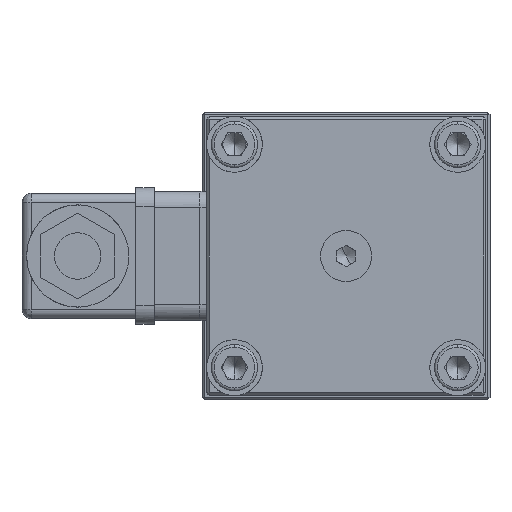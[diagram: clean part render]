
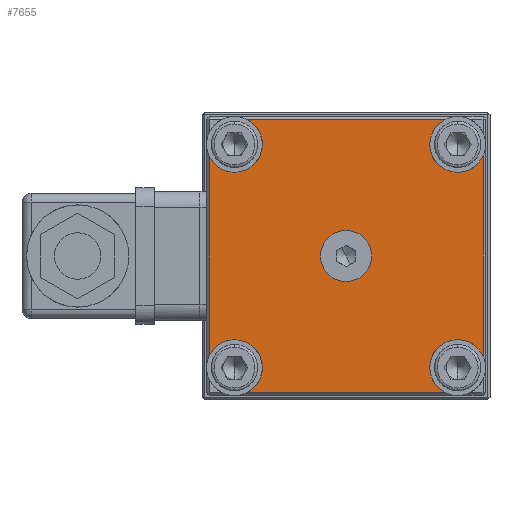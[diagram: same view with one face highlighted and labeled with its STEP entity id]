
A CAD part, left-side view. The second image highlights one B-rep face of the part: STEP entity #7655.
In plain terms, the highlighted planar face has unit normal (-1, 0, 0).
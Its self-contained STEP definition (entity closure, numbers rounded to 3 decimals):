
#188 = ORIENTED_EDGE ( 'NONE', *, *, #16008, .T. ) ;
#210 = CIRCLE ( 'NONE', #5236, 5.5 ) ;
#301 = AXIS2_PLACEMENT_3D ( 'NONE', #13980, #16848, #15102 ) ;
#345 = VERTEX_POINT ( 'NONE', #12048 ) ;
#861 = CIRCLE ( 'NONE', #15556, 5.5 ) ;
#968 = AXIS2_PLACEMENT_3D ( 'NONE', #15687, #13019, #11976 ) ;
#998 = DIRECTION ( 'NONE',  ( 1., 0., 0. ) ) ;
#1116 = DIRECTION ( 'NONE',  ( 0., -1., 0. ) ) ;
#1243 = VECTOR ( 'NONE', #1116, 1000. ) ;
#1252 = CARTESIAN_POINT ( 'NONE',  ( -106.2, 24.04, -24.04 ) ) ;
#1376 = VERTEX_POINT ( 'NONE', #6671 ) ;
#2007 = AXIS2_PLACEMENT_3D ( 'NONE', #9229, #6359, #11733 ) ;
#2308 = ORIENTED_EDGE ( 'NONE', *, *, #11962, .T. ) ;
#2666 = ORIENTED_EDGE ( 'NONE', *, *, #7979, .T. ) ;
#2819 = CIRCLE ( 'NONE', #2007, 6. ) ;
#3038 = DIRECTION ( 'NONE',  ( 0., 0.5, 0.866 ) ) ;
#3246 = DIRECTION ( 'NONE',  ( 0., 0., -1. ) ) ;
#3252 = DIRECTION ( 'NONE',  ( 0., 0., 1. ) ) ;
#3268 = DIRECTION ( 'NONE',  ( -1., 0., 0. ) ) ;
#3324 = EDGE_CURVE ( 'NONE', #15668, #1376, #17120, .T. ) ;
#3343 = VERTEX_POINT ( 'NONE', #15802 ) ;
#3401 = CARTESIAN_POINT ( 'NONE',  ( -106.2, 24.04, -24.04 ) ) ;
#3488 = AXIS2_PLACEMENT_3D ( 'NONE', #10334, #9039, #7923 ) ;
#4364 = CARTESIAN_POINT ( 'NONE',  ( -106.2, 0., 0. ) ) ;
#4409 = FACE_BOUND ( 'NONE', #10839, .T. ) ;
#4416 = VERTEX_POINT ( 'NONE', #7624 ) ;
#4550 = AXIS2_PLACEMENT_3D ( 'NONE', #9617, #13680, #3252 ) ;
#4722 = EDGE_CURVE ( 'NONE', #8024, #8419, #861, .T. ) ;
#4875 = CIRCLE ( 'NONE', #7096, 6. ) ;
#4986 = DIRECTION ( 'NONE',  ( 1., 0., 0. ) ) ;
#5067 = DIRECTION ( 'NONE',  ( 0., 0., -1. ) ) ;
#5132 = EDGE_CURVE ( 'NONE', #12829, #8353, #16643, .T. ) ;
#5236 = AXIS2_PLACEMENT_3D ( 'NONE', #4364, #9927, #3038 ) ;
#5253 = CARTESIAN_POINT ( 'NONE',  ( -106.2, -24.04, -24.04 ) ) ;
#5409 = ORIENTED_EDGE ( 'NONE', *, *, #11134, .F. ) ;
#5442 = DIRECTION ( 'NONE',  ( 0., 0., -1. ) ) ;
#5502 = EDGE_CURVE ( 'NONE', #11074, #10484, #17157, .T. ) ;
#5667 = CARTESIAN_POINT ( 'NONE',  ( -106.2, -29.5, 29.5 ) ) ;
#5804 = PLANE ( 'NONE',  #4550 ) ;
#6198 = VERTEX_POINT ( 'NONE', #6500 ) ;
#6359 = DIRECTION ( 'NONE',  ( 1., 0., 0. ) ) ;
#6500 = CARTESIAN_POINT ( 'NONE',  ( -106.2, -24.04, 18.04 ) ) ;
#6671 = CARTESIAN_POINT ( 'NONE',  ( -106.2, -29.5, 21.552 ) ) ;
#6915 = VECTOR ( 'NONE', #9311, 1000. ) ;
#7096 = AXIS2_PLACEMENT_3D ( 'NONE', #10662, #8324, #5442 ) ;
#7154 = CARTESIAN_POINT ( 'NONE',  ( -106.2, 24.04, -18.04 ) ) ;
#7221 = CARTESIAN_POINT ( 'NONE',  ( -106.2, 0., 0. ) ) ;
#7624 = CARTESIAN_POINT ( 'NONE',  ( -106.2, -21.552, 29.5 ) ) ;
#7655 = ADVANCED_FACE ( 'NONE', ( #4409, #14986 ), #5804, .T. ) ;
#7923 = DIRECTION ( 'NONE',  ( 0., 0., -1. ) ) ;
#7974 = ORIENTED_EDGE ( 'NONE', *, *, #3324, .T. ) ;
#7979 = EDGE_CURVE ( 'NONE', #10484, #8412, #14705, .T. ) ;
#7986 = ORIENTED_EDGE ( 'NONE', *, *, #14650, .T. ) ;
#8024 = VERTEX_POINT ( 'NONE', #10985 ) ;
#8324 = DIRECTION ( 'NONE',  ( 1., 0., 0. ) ) ;
#8353 = VERTEX_POINT ( 'NONE', #11213 ) ;
#8412 = VERTEX_POINT ( 'NONE', #13220 ) ;
#8419 = VERTEX_POINT ( 'NONE', #16862 ) ;
#8615 = ORIENTED_EDGE ( 'NONE', *, *, #4722, .F. ) ;
#9029 = ORIENTED_EDGE ( 'NONE', *, *, #16714, .T. ) ;
#9039 = DIRECTION ( 'NONE',  ( 1., 0., 0. ) ) ;
#9090 = CIRCLE ( 'NONE', #9366, 6. ) ;
#9229 = CARTESIAN_POINT ( 'NONE',  ( -106.2, -24.04, 24.04 ) ) ;
#9311 = DIRECTION ( 'NONE',  ( 0., 0., 1. ) ) ;
#9366 = AXIS2_PLACEMENT_3D ( 'NONE', #5253, #4986, #13057 ) ;
#9397 = AXIS2_PLACEMENT_3D ( 'NONE', #3401, #998, #13065 ) ;
#9404 = CARTESIAN_POINT ( 'NONE',  ( -106.2, 29.5, 21.552 ) ) ;
#9481 = CIRCLE ( 'NONE', #301, 6. ) ;
#9579 = DIRECTION ( 'NONE',  ( 0., 1., 0. ) ) ;
#9617 = CARTESIAN_POINT ( 'NONE',  ( -106.2, 0., 0. ) ) ;
#9832 = CIRCLE ( 'NONE', #968, 6. ) ;
#9927 = DIRECTION ( 'NONE',  ( -1., 0., 0. ) ) ;
#10272 = AXIS2_PLACEMENT_3D ( 'NONE', #1252, #16956, #5067 ) ;
#10334 = CARTESIAN_POINT ( 'NONE',  ( -106.2, -24.04, -24.04 ) ) ;
#10367 = EDGE_LOOP ( 'NONE', ( #2666, #188, #7986, #7974, #15471, #13586, #11177, #16005, #2308, #13248, #9029, #15938 ) ) ;
#10481 = VERTEX_POINT ( 'NONE', #12598 ) ;
#10484 = VERTEX_POINT ( 'NONE', #12781 ) ;
#10623 = VECTOR ( 'NONE', #3246, 1000. ) ;
#10662 = CARTESIAN_POINT ( 'NONE',  ( -106.2, 24.04, 24.04 ) ) ;
#10839 = EDGE_LOOP ( 'NONE', ( #8615, #5409 ) ) ;
#10985 = CARTESIAN_POINT ( 'NONE',  ( -106.2, 2.75, 4.763 ) ) ;
#11074 = VERTEX_POINT ( 'NONE', #7154 ) ;
#11134 = EDGE_CURVE ( 'NONE', #8419, #8024, #210, .T. ) ;
#11177 = ORIENTED_EDGE ( 'NONE', *, *, #15886, .T. ) ;
#11213 = CARTESIAN_POINT ( 'NONE',  ( -106.2, 29.5, -21.552 ) ) ;
#11733 = DIRECTION ( 'NONE',  ( 0., 0., -1. ) ) ;
#11962 = EDGE_CURVE ( 'NONE', #345, #12829, #9481, .T. ) ;
#11976 = DIRECTION ( 'NONE',  ( 0., 0., -1. ) ) ;
#12048 = CARTESIAN_POINT ( 'NONE',  ( -106.2, 24.04, 18.04 ) ) ;
#12467 = CARTESIAN_POINT ( 'NONE',  ( -106.2, -29.5, -21.552 ) ) ;
#12598 = CARTESIAN_POINT ( 'NONE',  ( -106.2, 21.552, 29.5 ) ) ;
#12781 = CARTESIAN_POINT ( 'NONE',  ( -106.2, 21.552, -29.5 ) ) ;
#12829 = VERTEX_POINT ( 'NONE', #9404 ) ;
#12970 = EDGE_CURVE ( 'NONE', #1376, #6198, #2819, .T. ) ;
#13003 = CARTESIAN_POINT ( 'NONE',  ( -106.2, 29.5, -29.5 ) ) ;
#13019 = DIRECTION ( 'NONE',  ( 1., 0., 0. ) ) ;
#13057 = DIRECTION ( 'NONE',  ( 0., 0., -1. ) ) ;
#13065 = DIRECTION ( 'NONE',  ( 0., 0., -1. ) ) ;
#13220 = CARTESIAN_POINT ( 'NONE',  ( -106.2, -21.552, -29.5 ) ) ;
#13248 = ORIENTED_EDGE ( 'NONE', *, *, #5132, .T. ) ;
#13487 = LINE ( 'NONE', #5667, #17122 ) ;
#13586 = ORIENTED_EDGE ( 'NONE', *, *, #13912, .T. ) ;
#13680 = DIRECTION ( 'NONE',  ( -1., 0., 0. ) ) ;
#13912 = EDGE_CURVE ( 'NONE', #6198, #4416, #9832, .T. ) ;
#13980 = CARTESIAN_POINT ( 'NONE',  ( -106.2, 24.04, 24.04 ) ) ;
#14207 = EDGE_CURVE ( 'NONE', #10481, #345, #4875, .T. ) ;
#14413 = CARTESIAN_POINT ( 'NONE',  ( -106.2, -29.5, -29.5 ) ) ;
#14650 = EDGE_CURVE ( 'NONE', #3343, #15668, #16245, .T. ) ;
#14705 = LINE ( 'NONE', #13003, #1243 ) ;
#14986 = FACE_OUTER_BOUND ( 'NONE', #10367, .T. ) ;
#15102 = DIRECTION ( 'NONE',  ( 0., 0., -1. ) ) ;
#15269 = DIRECTION ( 'NONE',  ( 0., 0.5, 0.866 ) ) ;
#15334 = CARTESIAN_POINT ( 'NONE',  ( -106.2, 29.5, 29.5 ) ) ;
#15471 = ORIENTED_EDGE ( 'NONE', *, *, #12970, .T. ) ;
#15556 = AXIS2_PLACEMENT_3D ( 'NONE', #7221, #3268, #15269 ) ;
#15668 = VERTEX_POINT ( 'NONE', #12467 ) ;
#15687 = CARTESIAN_POINT ( 'NONE',  ( -106.2, -24.04, 24.04 ) ) ;
#15796 = CIRCLE ( 'NONE', #10272, 6. ) ;
#15802 = CARTESIAN_POINT ( 'NONE',  ( -106.2, -24.04, -18.04 ) ) ;
#15886 = EDGE_CURVE ( 'NONE', #4416, #10481, #13487, .T. ) ;
#15938 = ORIENTED_EDGE ( 'NONE', *, *, #5502, .T. ) ;
#16005 = ORIENTED_EDGE ( 'NONE', *, *, #14207, .T. ) ;
#16008 = EDGE_CURVE ( 'NONE', #8412, #3343, #9090, .T. ) ;
#16245 = CIRCLE ( 'NONE', #3488, 6. ) ;
#16643 = LINE ( 'NONE', #15334, #10623 ) ;
#16714 = EDGE_CURVE ( 'NONE', #8353, #11074, #15796, .T. ) ;
#16848 = DIRECTION ( 'NONE',  ( 1., 0., 0. ) ) ;
#16862 = CARTESIAN_POINT ( 'NONE',  ( -106.2, -2.75, -4.763 ) ) ;
#16956 = DIRECTION ( 'NONE',  ( 1., 0., 0. ) ) ;
#17120 = LINE ( 'NONE', #14413, #6915 ) ;
#17122 = VECTOR ( 'NONE', #9579, 1000. ) ;
#17157 = CIRCLE ( 'NONE', #9397, 6. ) ;
